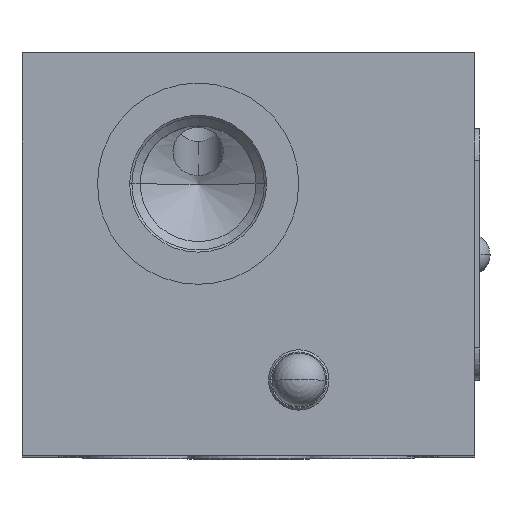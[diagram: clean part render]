
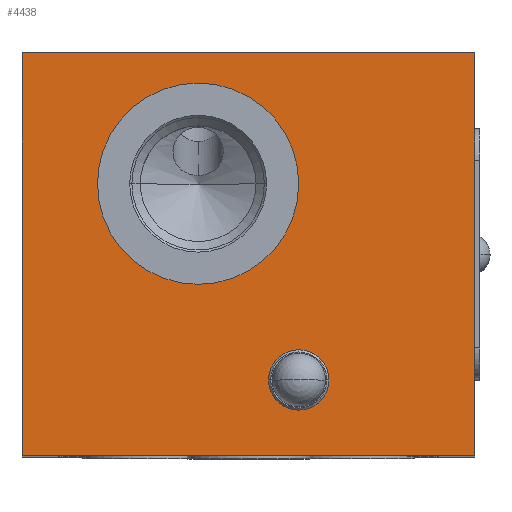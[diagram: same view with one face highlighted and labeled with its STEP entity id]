
A CAD part, top view. The second image highlights one B-rep face of the part: STEP entity #4438.
In plain terms, the highlighted planar face has unit normal (0, 0, 1).
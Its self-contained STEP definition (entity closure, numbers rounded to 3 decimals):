
#27=DIRECTION('',(1.,0.,0.));
#28=VECTOR('',#27,45.);
#29=CARTESIAN_POINT('',(0.,0.,0.));
#30=LINE('',#29,#28);
#34=DIRECTION('',(0.,-1.,0.));
#35=VECTOR('',#34,40.);
#36=CARTESIAN_POINT('',(0.,40.,0.));
#37=LINE('',#36,#35);
#41=DIRECTION('',(-1.,0.,0.));
#42=VECTOR('',#41,45.);
#43=CARTESIAN_POINT('',(45.,40.,0.));
#44=LINE('',#43,#42);
#48=DIRECTION('',(0.,1.,0.));
#49=VECTOR('',#48,40.);
#50=CARTESIAN_POINT('',(45.,0.,0.));
#51=LINE('',#50,#49);
#55=CARTESIAN_POINT('',(17.5,27.,0.));
#56=DIRECTION('',(0.,0.,-1.));
#57=DIRECTION('',(1.,0.,0.));
#58=AXIS2_PLACEMENT_3D('',#55,#56,#57);
#63=CARTESIAN_POINT('',(17.5,27.,0.));
#64=DIRECTION('',(0.,0.,-1.));
#65=DIRECTION('',(-1.,0.,0.));
#66=AXIS2_PLACEMENT_3D('',#63,#64,#65);
#71=CARTESIAN_POINT('',(27.5,7.5,0.));
#72=DIRECTION('',(0.,0.,-1.));
#73=DIRECTION('',(1.,0.,0.));
#74=AXIS2_PLACEMENT_3D('',#71,#72,#73);
#79=CARTESIAN_POINT('',(27.5,7.5,0.));
#80=DIRECTION('',(0.,0.,-1.));
#81=DIRECTION('',(-1.,0.,0.));
#82=AXIS2_PLACEMENT_3D('',#79,#80,#81);
#4097=CARTESIAN_POINT('',(0.,0.,0.));
#4098=CARTESIAN_POINT('',(45.,0.,0.));
#4099=VERTEX_POINT('',#4097);
#4100=VERTEX_POINT('',#4098);
#4101=CARTESIAN_POINT('',(45.,40.,0.));
#4102=VERTEX_POINT('',#4101);
#4103=CARTESIAN_POINT('',(0.,40.,0.));
#4104=VERTEX_POINT('',#4103);
#4169=CARTESIAN_POINT('',(27.5,27.,0.));
#4170=VERTEX_POINT('',#4169);
#4171=CARTESIAN_POINT('',(7.5,27.,0.));
#4172=VERTEX_POINT('',#4171);
#4303=CARTESIAN_POINT('',(30.5,7.5,0.));
#4304=CARTESIAN_POINT('',(24.5,7.5,0.));
#4305=VERTEX_POINT('',#4303);
#4306=VERTEX_POINT('',#4304);
#4411=CARTESIAN_POINT('',(0.,0.,0.));
#4412=DIRECTION('',(0.,0.,1.));
#4413=DIRECTION('',(1.,0.,0.));
#4414=AXIS2_PLACEMENT_3D('',#4411,#4412,#4413);
#4415=PLANE('',#4414);
#4417=ORIENTED_EDGE('',*,*,#4416,.F.);
#4419=ORIENTED_EDGE('',*,*,#4418,.F.);
#4421=ORIENTED_EDGE('',*,*,#4420,.F.);
#4423=ORIENTED_EDGE('',*,*,#4422,.F.);
#4424=EDGE_LOOP('',(#4417,#4419,#4421,#4423));
#4425=FACE_OUTER_BOUND('',#4424,.F.);
#4427=ORIENTED_EDGE('',*,*,#4426,.F.);
#4429=ORIENTED_EDGE('',*,*,#4428,.F.);
#4430=EDGE_LOOP('',(#4427,#4429));
#4431=FACE_BOUND('',#4430,.F.);
#4433=ORIENTED_EDGE('',*,*,#4432,.F.);
#4435=ORIENTED_EDGE('',*,*,#4434,.F.);
#4436=EDGE_LOOP('',(#4433,#4435));
#4437=FACE_BOUND('',#4436,.F.);
#59=CIRCLE('',#58,10.);
#67=CIRCLE('',#66,10.);
#75=CIRCLE('',#74,3.);
#83=CIRCLE('',#82,3.);
#4416=EDGE_CURVE('',#4099,#4100,#30,.T.);
#4418=EDGE_CURVE('',#4104,#4099,#37,.T.);
#4420=EDGE_CURVE('',#4102,#4104,#44,.T.);
#4422=EDGE_CURVE('',#4100,#4102,#51,.T.);
#4426=EDGE_CURVE('',#4170,#4172,#59,.T.);
#4428=EDGE_CURVE('',#4172,#4170,#67,.T.);
#4432=EDGE_CURVE('',#4305,#4306,#75,.T.);
#4434=EDGE_CURVE('',#4306,#4305,#83,.T.);
#4438=ADVANCED_FACE('',(#4425,#4431,#4437),#4415,.T.);
